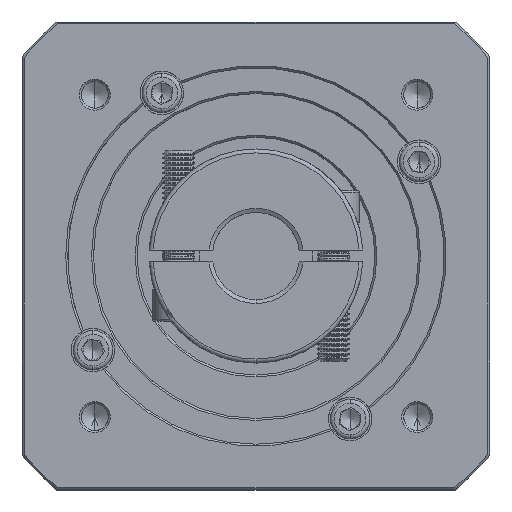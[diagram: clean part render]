
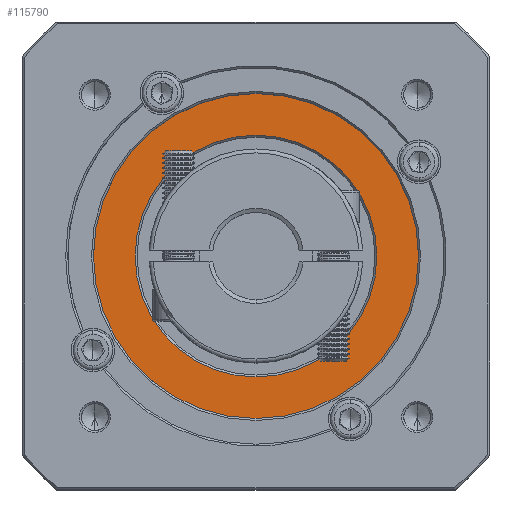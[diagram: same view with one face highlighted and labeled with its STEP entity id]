
A CAD part, top view. The second image highlights one B-rep face of the part: STEP entity #115790.
In plain terms, the highlighted planar face has unit normal (0, 0, 1).
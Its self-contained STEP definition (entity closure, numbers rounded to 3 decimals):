
#11041 = CARTESIAN_POINT ( 'NONE',  ( 48.799, 76.112, -9.212 ) ) ;
#13149 = DIRECTION ( 'NONE',  ( 0., -1., 0. ) ) ;
#14550 = CARTESIAN_POINT ( 'NONE',  ( 48.799, 76.112, -9.212 ) ) ;
#14591 = VERTEX_POINT ( 'NONE', #94691 ) ;
#14876 = DIRECTION ( 'NONE',  ( 0., -1., 0. ) ) ;
#16713 = DIRECTION ( 'NONE',  ( 0., -1., 0. ) ) ;
#21929 = DIRECTION ( 'NONE',  ( 0., -1., 0. ) ) ;
#24745 = VERTEX_POINT ( 'NONE', #127414 ) ;
#26591 = EDGE_LOOP ( 'NONE', ( #117214, #61300 ) ) ;
#30861 = CARTESIAN_POINT ( 'NONE',  ( 48.799, 76.112, -9.212 ) ) ;
#33127 = DIRECTION ( 'NONE',  ( 0., 0., -1. ) ) ;
#37170 = CARTESIAN_POINT ( 'NONE',  ( 48.799, 106.612, -9.212 ) ) ;
#40707 = AXIS2_PLACEMENT_3D ( 'NONE', #59024, #134588, #16713 ) ;
#41640 = DIRECTION ( 'NONE',  ( 0., -1., 0. ) ) ;
#44710 = CIRCLE ( 'NONE', #47466, 41. ) ;
#46327 = DIRECTION ( 'NONE',  ( 0., 0., 1. ) ) ;
#47466 = AXIS2_PLACEMENT_3D ( 'NONE', #14550, #110701, #13149 ) ;
#48348 = ORIENTED_EDGE ( 'NONE', *, *, #58034, .T. ) ;
#55739 = AXIS2_PLACEMENT_3D ( 'NONE', #11041, #33127, #21929 ) ;
#58034 = EDGE_CURVE ( 'NONE', #90303, #24745, #111853, .T. ) ;
#59024 = CARTESIAN_POINT ( 'NONE',  ( 48.799, 76.112, -9.212 ) ) ;
#61229 = AXIS2_PLACEMENT_3D ( 'NONE', #112890, #46327, #14876 ) ;
#61300 = ORIENTED_EDGE ( 'NONE', *, *, #120392, .T. ) ;
#61539 = EDGE_CURVE ( 'NONE', #24745, #90303, #44710, .T. ) ;
#82911 = FACE_BOUND ( 'NONE', #26591, .T. ) ;
#84927 = CIRCLE ( 'NONE', #101034, 30.5 ) ;
#90303 = VERTEX_POINT ( 'NONE', #122798 ) ;
#92435 = ORIENTED_EDGE ( 'NONE', *, *, #61539, .T. ) ;
#93155 = EDGE_CURVE ( 'NONE', #14591, #102510, #84927, .T. ) ;
#94691 = CARTESIAN_POINT ( 'NONE',  ( 48.799, 45.612, -9.212 ) ) ;
#101034 = AXIS2_PLACEMENT_3D ( 'NONE', #30861, #106294, #41640 ) ;
#102510 = VERTEX_POINT ( 'NONE', #37170 ) ;
#105462 = EDGE_LOOP ( 'NONE', ( #48348, #92435 ) ) ;
#106294 = DIRECTION ( 'NONE',  ( 0., 0., -1. ) ) ;
#110701 = DIRECTION ( 'NONE',  ( 0., 0., 1. ) ) ;
#111028 = PLANE ( 'NONE',  #61229 ) ;
#111853 = CIRCLE ( 'NONE', #40707, 41. ) ;
#112890 = CARTESIAN_POINT ( 'NONE',  ( 48.799, 76.112, -9.212 ) ) ;
#115790 = ADVANCED_FACE ( 'NONE', ( #123462, #82911 ), #111028, .T. ) ;
#116609 = CIRCLE ( 'NONE', #55739, 30.5 ) ;
#117214 = ORIENTED_EDGE ( 'NONE', *, *, #93155, .T. ) ;
#120392 = EDGE_CURVE ( 'NONE', #102510, #14591, #116609, .T. ) ;
#122798 = CARTESIAN_POINT ( 'NONE',  ( 48.799, 35.112, -9.212 ) ) ;
#123462 = FACE_OUTER_BOUND ( 'NONE', #105462, .T. ) ;
#127414 = CARTESIAN_POINT ( 'NONE',  ( 48.799, 117.112, -9.212 ) ) ;
#134588 = DIRECTION ( 'NONE',  ( 0., 0., 1. ) ) ;
